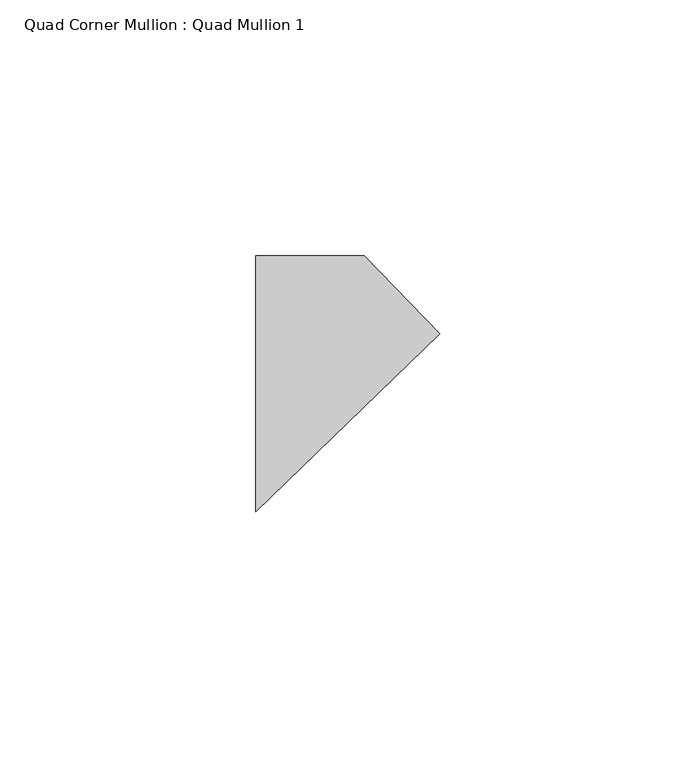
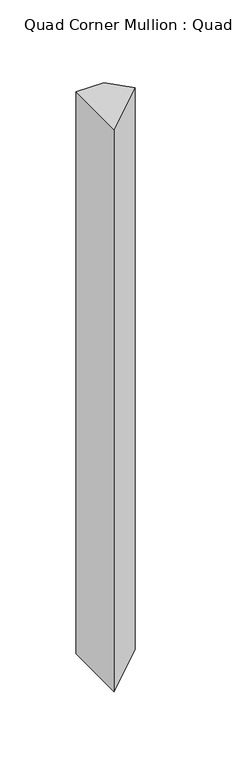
"""IFC4 building model written with IfcOpenShell, lengths in millimetres: member geometry, Quad Corner Mullion : Quad Mullion 1."""

from ifc_helpers import new_model, si_unit, frame, origin, place, context, project, spatial, polyline, outline, extrude, source, transform, mapped, element, save


def quad_corner_mullion_quad_mullion_1_b1e6baa8(model_context):
    return source(origin(), model_context, "Body", "SweptSolid", [
        extrude(outline(polyline([(25.3551196, 9.7329185), (-10.6118704, -25.0), (-10.6118704, 25.0), (10.6118704, 25.0), (25.3551196, 9.7329185)])), frame((0.0, 0.0, -450.0), z_axis=(0.0, 0.0, 1.0), x_axis=(1.0, 0.0, 0.0)), (0.0, 0.0, 1.0), 450.0),
    ])


if __name__ == "__main__":
    model = new_model("IFC4")
    model_context = context("Model", 3, world=origin())
    ifc_project = project(units=[si_unit("LENGTHUNIT", "METRE", prefix="MILLI")], contexts=[model_context])
    site = spatial("IfcSite", under=ifc_project)
    building = spatial("IfcBuilding", under=site)
    placement = place(None, origin())
    quad_corner_mullion_quad_mullion_1_shape = quad_corner_mullion_quad_mullion_1_b1e6baa8(model_context)
    element("IfcMember", 1, ObjectType="Quad Corner Mullion : Quad Mullion 1", at=placement, inside=building, context=model_context, shape_type="MappedRepresentation", body=[
        mapped(quad_corner_mullion_quad_mullion_1_shape, transform((0.0, 0.0, 0.0), x_axis=(1.0, 0.0, 0.0), y_axis=(0.0, 1.0, 0.0), z_axis=(0.0, 0.0, 1.0))),
    ])
    save(model, "model.ifc")
